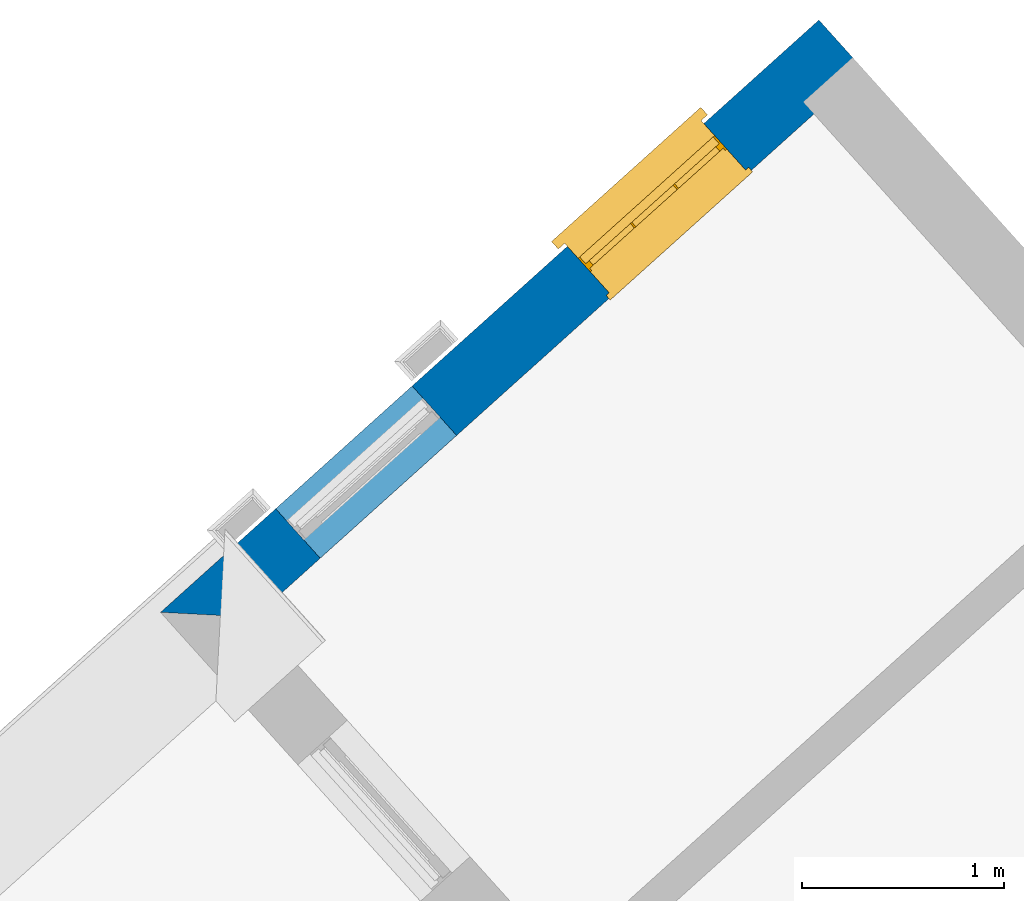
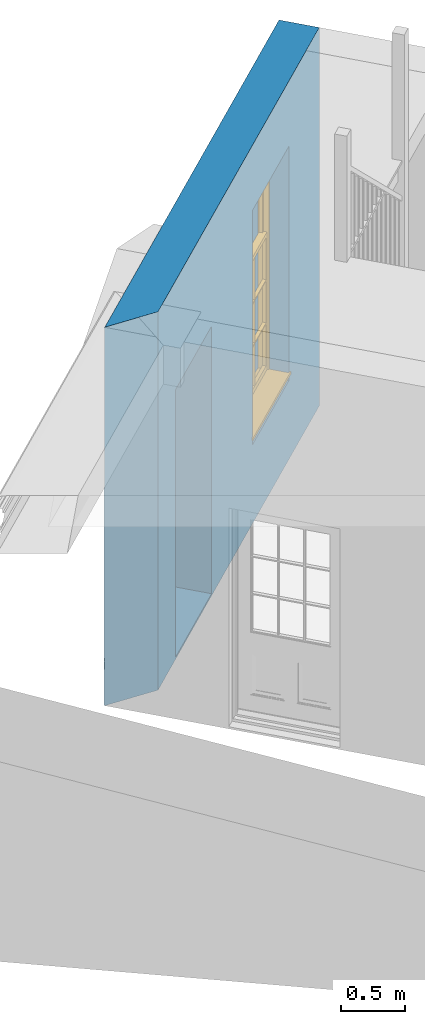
# One storey, part 4 of 6: 1 wall, 1 window, 2 openings.
"""IFC4 building model written with IfcOpenShell, lengths in metres."""

from ifc_helpers import new_model, si_unit, frame, origin, origin_with_axes, place, context, subcontext, project, spatial, polyline, outline, extrude, faceted_brep, source, transform, mapped, material, layer, layer_set, layer_usage, type_object, type_shapes, element, fill, save


model = new_model("IFC4")

# Units and contexts
model_context = context("Model", 3, world=origin_with_axes())
body_context = subcontext(model_context, "Body", "Model", "MODEL_VIEW")
ifc_project = project(units=[si_unit("PLANEANGLEUNIT", "RADIAN"), si_unit("MASSUNIT", "GRAM", prefix="KILO"), si_unit("FORCEUNIT", "NEWTON", prefix="KILO"), si_unit("LENGTHUNIT", "METRE"), si_unit("AREAUNIT", "SQUARE_METRE"), si_unit("VOLUMEUNIT", "CUBIC_METRE")], contexts=[model_context, model_context])

# Sites, building, storey
site_1_placement = place(None, origin_with_axes())
site_1 = spatial("IfcSite", under=ifc_project, at=site_1_placement, Name="Tamar")
site_2_placement = place(site_1_placement, origin_with_axes())
site_2 = spatial("IfcSite", under=site_1, at=site_2_placement, Name="Site plot-6", CompositionType="ELEMENT")
building_placement = place(None, origin_with_axes())
building = spatial("IfcBuilding", under=site_2, at=building_placement, Name="Building plot-6", CompositionType="ELEMENT")
storey_placement = place(None, frame((0.0, 0.0, 24.5), z_axis=(0.0, 0.0, 1.0), x_axis=(1.0, 0.0, 0.0)))
storey = spatial("IfcBuildingStorey", under=building, at=storey_placement, Name="plot-6 0", CompositionType="ELEMENT", Elevation=24.5)

# Wall, openings, window
ifc_material = material(Name="Masonry")
ifc_layer = layer(ifc_material, 0.33, ventilated=False)
ifc_layer_set = layer_set([ifc_layer], Name="exterior_0.08_0.25")
ifc_layer_usage = layer_usage(ifc_layer_set, "AXIS2", "POSITIVE", -0.25)
wall_type = type_object("IfcWallType", Name="exterior_0.08_0.25", PredefinedType="SOLIDWALL", material=ifc_layer_set)
wall_placement = place(storey_placement, frame((236.903086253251, 284.792318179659, 0.0), z_axis=(0.0, 0.0, 1.0), x_axis=(-0.743394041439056, -0.668853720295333, 0.0)))
wall = element("IfcWall", 1, at=wall_placement, inside=storey, type_object=wall_type, material=ifc_layer_usage, Name="exterior", context=body_context, shape_type="SweptSolid", body=[
    extrude(outline(polyline([(-0.250000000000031, 0.0799999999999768), (-0.250000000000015, -0.250000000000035), (4.14063342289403, -0.250000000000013), (3.81063342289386, 0.0799999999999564), (-0.250000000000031, 0.0799999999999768)])), origin_with_axes(), (0.0, 0.0, 1.0), 3.6),
])
opening_1_placement = place(wall_placement, frame((0.51765835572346, 0.0, 0.75)))
opening_1 = element("IfcOpeningElement", 2, at=opening_1_placement, cuts=wall, Name="My Opening", ObjectType="Opening", context=body_context, shape_type="SweptSolid", body=[
    extrude(outline(polyline([(0.0, -0.270000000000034), (0.910000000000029, -0.269999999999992), (0.910000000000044, 1.10000000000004), (1.4432899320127e-14, 1.1), (0.0, -0.270000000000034)])), origin_with_axes(), (0.0, 0.0, 1.0), 2.23),
])
opening_2_placement = place(wall_placement, frame((2.46297506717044, 0.0, 0.0199999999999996)))
element("IfcOpeningElement", 3, at=opening_2_placement, cuts=wall, Name="My Opening", ObjectType="Opening", context=body_context, shape_type="SweptSolid", body=[
    extrude(outline(polyline([(0.0, -0.270000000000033), (0.910000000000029, -0.269999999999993), (0.910000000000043, 1.10000000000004), (1.37667655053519e-14, 1.1), (0.0, -0.270000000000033)])), origin_with_axes(), (0.0, 0.0, 1.0), 2.545),
])
window_type = type_object("IfcWindowType", Name="sash_big_taller", PartitioningType="DOUBLE_PANEL_HORIZONTAL", PredefinedType="NOTDEFINED")
shared_shape = source(origin(), body_context, "Body", "Brep", [
    faceted_brep([(0.033125, 0.145, 1.385209), (0.01, 0.145, 1.385209), (0.033125, 0.145, 1.786042), (0.876875, 0.145, 1.385209), (0.876875, 0.145, 1.786042), (0.9, 0.145, 1.385209), (0.876875, 0.145, 1.796042), (0.876875, 0.145, 2.196875), (0.9, 0.145, 2.22), (0.033125, 0.145, 2.196875), (0.033125, 0.145, 1.796042), (0.01, 0.145, 2.22), (0.876875, 0.115, 1.786042), (0.876875, 0.115, 1.385209), (0.9, 0.115, 1.347084), (0.033125, 0.115, 2.196875), (0.01, 0.115, 2.22), (0.033125, 0.115, 1.796042), (0.01, 0.115, 1.347084), (0.033125, 0.115, 1.385209), (0.033125, 0.115, 1.786042), (0.876875, 0.115, 2.196875), (0.876875, 0.115, 1.796042), (0.9, 0.115, 2.22), (0.033125, 0.145, 1.347084), (0.01, 0.145, 1.347084), (0.033125, 0.145, 0.94625), (0.876875, 0.145, 1.347084), (0.876875, 0.145, 0.94625), (0.9, 0.145, 1.347084), (0.876875, 0.145, 0.52625), (0.876875, 0.145, 0.125417), (0.9, 0.145, 0.077167), (0.033125, 0.145, 0.125417), (0.033125, 0.145, 0.52625), (0.01, 0.145, 0.077167), (-0.0425, 0.0, 0.01), (-0.0425, -0.05, 0.001667), (0.0, 0.0, 0.01), (0.9525, 0.0, 0.01), (0.91, 0.0, 0.01), (0.9525, -0.05, 0.001667), (-0.02, 0.33, 0.077167), (0.0, 0.33, 0.077167), (-0.02, 0.36, 0.077167), (0.0, 0.19, 0.077167), (0.01, 0.19, 0.077167), (0.91, 0.19, 0.077167), (0.91, 0.33, 0.077167), (0.9, 0.19, 0.077167), (0.93, 0.33, 0.077167), (0.93, 0.36, 0.077167), (0.01, 0.175, 1.385209), (0.9, 0.175, 1.385209), (0.876875, 0.175, 0.125417), (0.876875, 0.175, 0.52625), (0.9, 0.175, 0.077167), (0.876875, 0.175, 0.94625), (0.876875, 0.175, 1.347084), (0.033125, 0.175, 0.125417), (0.01, 0.175, 0.077167), (0.033125, 0.175, 0.52625), (0.033125, 0.175, 1.347084), (0.033125, 0.175, 0.94625), (-0.02, 0.33, 0.052167), (-0.02, 0.36, 0.052167), (0.93, 0.36, 0.052167), (0.93, 0.33, 0.052167), (0.91, 0.33, 0.052167), (0.0, 0.33, 0.052167), (0.91, 0.1, 0.026667), (0.0, 0.1, 0.026667), (-0.0425, -0.05, -0.123333), (0.9525, -0.05, -0.123333), (-0.0425, 0.0, -0.123333), (0.9525, 0.0, -0.123333), (0.01, 0.19, 2.22), (0.9, 0.19, 2.22), (0.0, 0.19, 2.23), (0.91, 0.19, 2.23), (0.01, 0.1, 0.077167), (0.9, 0.1, 0.077167), (0.592292, 0.145, 0.125417), (0.592292, 0.175, 0.125417), (0.317708, 0.175, 0.125417), (0.317708, 0.145, 0.125417), (0.592292, 0.145, 0.53625), (0.317708, 0.145, 0.53625), (0.317708, 0.145, 0.52625), (0.592292, 0.145, 0.52625), (0.592292, 0.175, 0.53625), (0.317708, 0.175, 0.53625), (0.592292, 0.115, 1.796042), (0.592292, 0.145, 1.796042), (0.317708, 0.145, 1.796042), (0.317708, 0.115, 1.796042), (0.317708, 0.115, 1.786042), (0.592292, 0.115, 1.786042), (0.317708, 0.145, 1.786042), (0.592292, 0.145, 1.786042), (0.602292, 0.115, 1.786042), (0.592292, 0.115, 1.385209), (0.602292, 0.115, 1.385209), (0.602292, 0.145, 1.385209), (0.592292, 0.145, 1.385209), (0.602292, 0.145, 1.786042), (0.876875, 0.145, 0.53625), (0.876875, 0.175, 0.53625), (0.602292, 0.175, 0.53625), (0.602292, 0.145, 0.53625), (0.317708, 0.175, 0.52625), (0.307708, 0.175, 0.125417), (0.307708, 0.175, 0.52625), (0.602292, 0.175, 0.52625), (0.602292, 0.175, 0.125417), (0.592292, 0.175, 0.52625), (0.307708, 0.175, 0.53625), (0.033125, 0.175, 0.53625), (0.317708, 0.175, 1.347084), (0.317708, 0.175, 0.94625), (0.307708, 0.175, 0.94625), (0.307708, 0.175, 1.347084), (0.602292, 0.175, 1.347084), (0.602292, 0.175, 0.94625), (0.592292, 0.175, 0.94625), (0.592292, 0.175, 1.347084), (0.307708, 0.145, 0.52625), (0.307708, 0.145, 0.125417), (0.307708, 0.145, 0.53625), (0.033125, 0.145, 0.53625), (0.307708, 0.145, 1.347084), (0.307708, 0.145, 0.94625), (0.592292, 0.145, 1.347084), (0.592292, 0.145, 0.94625), (0.317708, 0.145, 0.94625), (0.317708, 0.145, 1.347084), (0.602292, 0.145, 0.94625), (0.602292, 0.145, 1.347084), (0.602292, 0.145, 0.52625), (0.602292, 0.145, 0.125417), (0.307708, 0.115, 1.796042), (0.307708, 0.115, 1.786042), (0.307708, 0.115, 1.385209), (0.317708, 0.115, 1.385209), (0.317708, 0.115, 2.196875), (0.307708, 0.115, 2.196875), (0.602292, 0.115, 2.196875), (0.592292, 0.115, 2.196875), (0.602292, 0.115, 1.796042), (0.602292, 0.145, 1.796042), (0.307708, 0.145, 1.796042), (0.307708, 0.145, 2.196875), (0.317708, 0.145, 2.196875), (0.592292, 0.145, 2.196875), (0.602292, 0.145, 2.196875), (0.307708, 0.145, 1.786042), (0.317708, 0.145, 1.385209), (0.307708, 0.145, 1.385209), (0.876875, 0.175, 0.93625), (0.033125, 0.175, 0.93625), (0.033125, 0.145, 0.93625), (0.876875, 0.145, 0.93625), (0.91, 0.1, 2.23), (0.9, 0.1, 2.22), (0.01, 0.1, 2.22), (0.0, 0.1, 2.23), (0.91, 0.0, 0.0), (0.0, 0.0, 0.0), (0.91, 0.33, 0.0), (0.0, 0.33, 0.0), (0.317708, 0.145, 0.93625), (0.592292, 0.145, 0.93625), (0.317708, 0.175, 0.93625), (0.307708, 0.175, 0.93625), (0.602292, 0.175, 0.93625), (0.592292, 0.175, 0.93625), (0.307708, 0.145, 0.93625), (0.602292, 0.145, 0.93625)], [[[0, 1, 2]], [[3, 4, 5]], [[6, 7, 8]], [[9, 10, 11]], [[12, 13, 14]], [[15, 16, 17]], [[18, 19, 20]], [[21, 22, 23]], [[24, 25, 26]], [[27, 28, 29]], [[30, 31, 32]], [[33, 34, 35]], [[14, 27, 29]], [[25, 24, 18]], [[36, 37, 38]], [[39, 40, 41]], [[42, 43, 44]], [[45, 46, 43]], [[47, 48, 49]], [[50, 51, 48]], [[1, 0, 52]], [[5, 53, 3]], [[54, 55, 56]], [[57, 58, 53]], [[59, 60, 61]], [[62, 63, 52]], [[48, 43, 46, 49]], [[51, 44, 43, 48]], [[64, 42, 44, 65]], [[65, 44, 51, 66]], [[66, 51, 50, 67]], [[65, 66, 68, 69]], [[60, 56, 49, 46]], [[70, 71, 38, 40]], [[37, 41, 40, 38]], [[37, 72, 73, 41]], [[74, 75, 73, 72]], [[8, 11, 76, 77]], [[76, 78, 79, 77]], [[32, 35, 80, 81]], [[81, 80, 71, 70]], [[82, 83, 84, 85]], [[86, 87, 88, 89]], [[86, 90, 91, 87]], [[92, 93, 94, 95]], [[92, 95, 96, 97]], [[96, 98, 99, 97]], [[100, 97, 101, 102]], [[103, 104, 99, 105]], [[97, 99, 104, 101]], [[102, 103, 105, 100]], [[106, 107, 108, 109]], [[110, 84, 111, 112]], [[113, 114, 83, 115]], [[116, 112, 61, 117]], [[90, 115, 110, 91]], [[118, 119, 120, 121]], [[122, 123, 124, 125]], [[113, 108, 107, 55]], [[126, 112, 111, 127]], [[34, 61, 112, 126]], [[89, 115, 83, 82]], [[88, 110, 115, 89]], [[85, 84, 110, 88]], [[128, 116, 117, 129]], [[130, 121, 120, 131]], [[132, 125, 124, 133]], [[134, 119, 118, 135]], [[136, 123, 122, 137]], [[138, 113, 55, 30]], [[139, 114, 113, 138]], [[138, 30, 106, 109]], [[88, 126, 127, 85]], [[138, 89, 82, 139]], [[137, 132, 133, 136]], [[128, 129, 34, 126]], [[135, 130, 131, 134]], [[140, 17, 20, 141]], [[96, 141, 142, 143]], [[144, 145, 140, 95]], [[146, 147, 92, 148]], [[100, 12, 22, 148]], [[149, 6, 4, 105]], [[94, 150, 151, 152]], [[149, 93, 153, 154]], [[99, 98, 94, 93]], [[155, 2, 10, 150]], [[156, 157, 155, 98]], [[141, 155, 157, 142]], [[20, 2, 155, 141]], [[143, 156, 98, 96]], [[140, 150, 10, 17]], [[145, 151, 150, 140]], [[147, 153, 93, 92]], [[95, 94, 152, 144]], [[22, 6, 149, 148]], [[148, 149, 154, 146]], [[100, 105, 4, 12]], [[109, 86, 89, 138]], [[108, 113, 115, 90]], [[91, 110, 112, 116]], [[87, 128, 126, 88]], [[97, 100, 148, 92]], [[141, 96, 95, 140]], [[98, 155, 150, 94]], [[105, 99, 93, 149]], [[143, 101, 104, 156]], [[135, 118, 125, 132]], [[144, 152, 153, 147]], [[127, 111, 59, 33]], [[15, 9, 151, 145]], [[146, 154, 7, 21]], [[31, 54, 114, 139]], [[36, 74, 72, 37]], [[39, 41, 73, 75]], [[18, 14, 101, 143]], [[23, 16, 144, 147]], [[83, 56, 60, 84]], [[52, 53, 125, 118]], [[53, 52, 156, 104]], [[11, 8, 153, 152]], [[14, 18, 135, 132]], [[2, 1, 11, 10]], [[8, 5, 4, 6]], [[57, 53, 56, 158]], [[60, 52, 63, 159]], [[26, 25, 35, 160]], [[32, 29, 28, 161]], [[14, 23, 22, 12]], [[18, 20, 17, 16]], [[19, 0, 2, 20]], [[17, 10, 9, 15]], [[12, 4, 3, 13]], [[21, 7, 6, 22]], [[27, 58, 57, 28]], [[30, 55, 54, 31]], [[33, 59, 61, 34]], [[26, 63, 62, 24]], [[5, 8, 77, 53]], [[76, 11, 1, 52]], [[46, 45, 78, 76]], [[49, 77, 79, 47]], [[70, 162, 163, 81]], [[71, 80, 164, 165]], [[19, 142, 157, 0]], [[102, 13, 3, 103]], [[121, 130, 24, 62]], [[29, 32, 81, 14]], [[80, 35, 25, 18]], [[60, 46, 76, 52]], [[77, 49, 56, 53]], [[23, 14, 81, 163]], [[16, 164, 80, 18]], [[35, 85, 127]], [[127, 33, 35]], [[139, 82, 32]], [[32, 31, 139]], [[32, 82, 85, 35]], [[102, 101, 14]], [[14, 13, 102]], [[18, 143, 142]], [[142, 19, 18]], [[146, 21, 23]], [[23, 147, 146]], [[16, 15, 145]], [[145, 144, 16]], [[11, 152, 151]], [[151, 9, 11]], [[154, 153, 8]], [[8, 7, 154]], [[23, 163, 164, 16]], [[162, 165, 164, 163]], [[52, 118, 121]], [[121, 62, 52]], [[125, 53, 122]], [[58, 122, 53]], [[27, 137, 122, 58]], [[56, 83, 114]], [[114, 54, 56]], [[111, 84, 60]], [[60, 59, 111]], [[137, 27, 14]], [[14, 132, 137]], [[130, 135, 18]], [[18, 24, 130]], [[157, 156, 52]], [[52, 0, 157]], [[103, 3, 53]], [[53, 104, 103]], [[79, 78, 165, 162]], [[78, 45, 71, 165]], [[162, 70, 47, 79]], [[166, 75, 74, 167]], [[68, 66, 67]], [[48, 68, 67, 50]], [[69, 64, 65]], [[42, 64, 69, 43]], [[69, 68, 168, 169]], [[70, 68, 48, 47]], [[166, 168, 68, 70]], [[43, 69, 71, 45]], [[69, 169, 167, 71]], [[168, 166, 167, 169]], [[38, 167, 74, 36]], [[71, 167, 38]], [[39, 75, 166, 40]], [[40, 166, 70]], [[133, 134, 170, 171]], [[133, 124, 119, 134]], [[28, 57, 123, 136]], [[172, 91, 116, 173]], [[174, 108, 90, 175]], [[120, 173, 159, 63]], [[124, 175, 172, 119]], [[174, 123, 57, 158]], [[176, 173, 116, 128]], [[160, 159, 173, 176]], [[171, 175, 90, 86]], [[170, 172, 175, 171]], [[87, 91, 172, 170]], [[131, 120, 63, 26]], [[177, 174, 158, 161]], [[109, 108, 174, 177]], [[177, 161, 28, 136]], [[170, 176, 128, 87]], [[177, 171, 86, 109]], [[131, 26, 160, 176]], [[136, 133, 171, 177]], [[123, 174, 175, 124]], [[119, 172, 173, 120]], [[134, 131, 176, 170]], [[129, 117, 159, 160]], [[161, 158, 107, 106]], [[35, 34, 129]], [[35, 129, 160]], [[32, 106, 30]], [[32, 161, 106]], [[56, 55, 107]], [[56, 107, 158]], [[60, 117, 61]], [[60, 159, 117]]]),
])
type_shapes(window_type, [shared_shape])
window_placement = place(storey_placement, frame((236.337671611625, 284.64679685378, 0.75), z_axis=(0.0, 0.0, 1.0), x_axis=(-0.676488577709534, -0.608656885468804, 0.0)))
window = element("IfcWindow", 4, at=window_placement, inside=storey, type_object=window_type, Name="circulation street window", OverallHeight=2.23, OverallWidth=0.91, context=body_context, shape_type="MappedRepresentation", body=[
    mapped(shared_shape, transform((0.0, 0.0, 0.0), scale=1.0)),
])
fill(opening_1, window)

save(model, "model.ifc")
